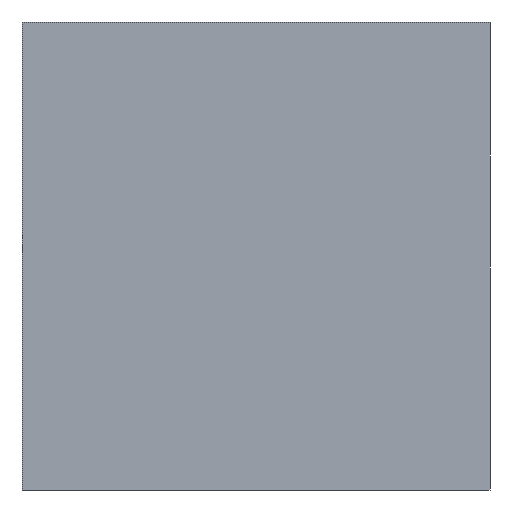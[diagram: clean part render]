
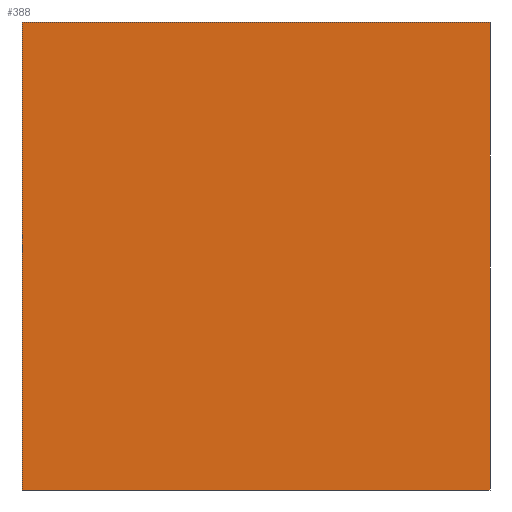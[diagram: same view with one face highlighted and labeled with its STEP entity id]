
A CAD part, front view. The second image highlights one B-rep face of the part: STEP entity #388.
In plain terms, the highlighted planar face has unit normal (0, -1, 0).
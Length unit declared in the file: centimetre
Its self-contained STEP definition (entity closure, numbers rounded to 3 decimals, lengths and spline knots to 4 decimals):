
#58 = CARTESIAN_POINT ( 'NONE',  ( 0., 0., 1000. ) ) ;
#60 = LINE ( 'NONE', #58, #110 ) ;
#87 = VECTOR ( 'NONE', #111, 100. ) ;
#98 = VERTEX_POINT ( 'NONE', #152 ) ;
#110 = VECTOR ( 'NONE', #361, 100. ) ;
#111 = DIRECTION ( 'NONE',  ( 0., 0., -1. ) ) ;
#113 = LINE ( 'NONE', #284, #551 ) ;
#116 = DIRECTION ( 'NONE',  ( 1., 0., 0. ) ) ;
#135 = EDGE_CURVE ( 'NONE', #497, #275, #113, .T. ) ;
#142 = VERTEX_POINT ( 'NONE', #430 ) ;
#152 = CARTESIAN_POINT ( 'NONE',  ( 1000., 0., 1000. ) ) ;
#210 = FACE_OUTER_BOUND ( 'NONE', #365, .T. ) ;
#217 = VECTOR ( 'NONE', #333, 100. ) ;
#228 = LINE ( 'NONE', #474, #87 ) ;
#229 = EDGE_CURVE ( 'NONE', #142, #98, #60, .T. ) ;
#236 = ORIENTED_EDGE ( 'NONE', *, *, #229, .F. ) ;
#249 = AXIS2_PLACEMENT_3D ( 'NONE', #445, #483, #293 ) ;
#260 = CARTESIAN_POINT ( 'NONE',  ( 1000., 0., 0. ) ) ;
#275 = VERTEX_POINT ( 'NONE', #260 ) ;
#282 = ORIENTED_EDGE ( 'NONE', *, *, #448, .T. ) ;
#284 = CARTESIAN_POINT ( 'NONE',  ( 0., 0., 0. ) ) ;
#293 = DIRECTION ( 'NONE',  ( 0., 0., 1. ) ) ;
#300 = PLANE ( 'NONE',  #249 ) ;
#303 = CARTESIAN_POINT ( 'NONE',  ( 0., 0., 1000. ) ) ;
#311 = ORIENTED_EDGE ( 'NONE', *, *, #457, .F. ) ;
#333 = DIRECTION ( 'NONE',  ( 0., 0., -1. ) ) ;
#361 = DIRECTION ( 'NONE',  ( 1., 0., 0. ) ) ;
#365 = EDGE_LOOP ( 'NONE', ( #453, #311, #236, #282 ) ) ;
#388 = ADVANCED_FACE ( 'NONE', ( #210 ), #300, .F. ) ;
#430 = CARTESIAN_POINT ( 'NONE',  ( 0., 0., 1000. ) ) ;
#445 = CARTESIAN_POINT ( 'NONE',  ( 0., 0., 1000. ) ) ;
#448 = EDGE_CURVE ( 'NONE', #142, #497, #523, .T. ) ;
#453 = ORIENTED_EDGE ( 'NONE', *, *, #135, .T. ) ;
#457 = EDGE_CURVE ( 'NONE', #98, #275, #228, .T. ) ;
#474 = CARTESIAN_POINT ( 'NONE',  ( 1000., 0., 1000. ) ) ;
#483 = DIRECTION ( 'NONE',  ( 0., 1., 0. ) ) ;
#497 = VERTEX_POINT ( 'NONE', #553 ) ;
#523 = LINE ( 'NONE', #303, #217 ) ;
#551 = VECTOR ( 'NONE', #116, 100. ) ;
#553 = CARTESIAN_POINT ( 'NONE',  ( 0., 0., 0. ) ) ;
